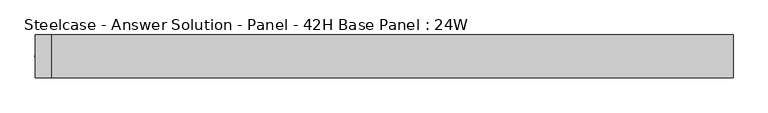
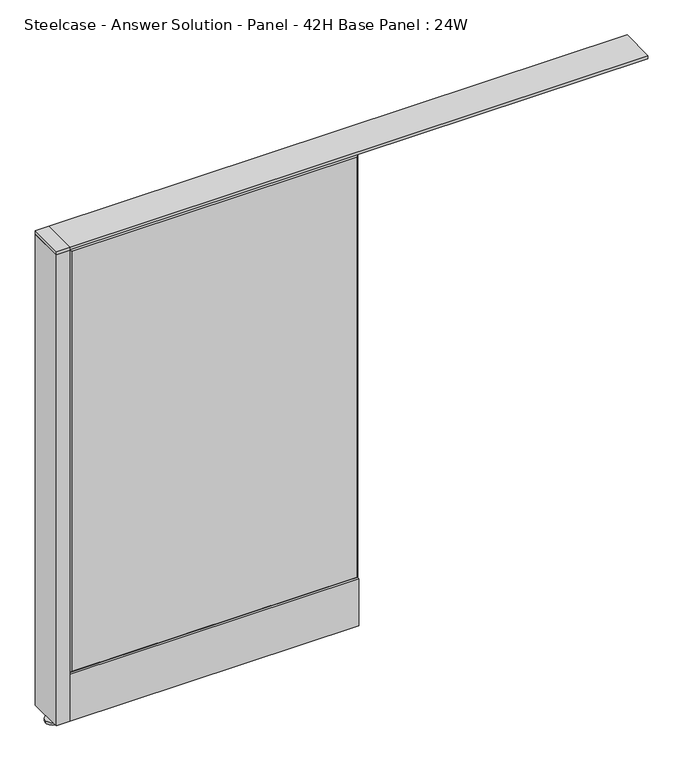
"""IFC4 building model written with IfcOpenShell, lengths in millimetres: furniture geometry, Steelcase - Answer Solution - Panel - 42H Base Panel : 24W."""

from ifc_helpers import new_model, si_unit, point, frame, frame_2d, origin, place, context, project, spatial, polyline, circle_curve, trimmed, segment, composite_curve, outline, extrude, faceted_brep, source, transform, mapped, element, save


def steelcase_answer_solution_panel_42h_base_panel_24w_7740fbed(model_context):
    return source(origin(), model_context, "Body", "SolidModel", [
        extrude(outline(composite_curve([segment(trimmed(circle_curve(frame_2d((-319.024, 0.0039657)), 5.08), [point((-324.104, 0.0039657))], [point((-313.944, 0.0039657))], False, "CARTESIAN"), True, "CONTINUOUS"), segment(trimmed(circle_curve(frame_2d((-319.024, 0.0039657)), 5.08), [point((-313.944, 0.0039657))], [point((-324.104, 0.0039657))], False, "CARTESIAN"), True, "CONTINUOUS")], self_intersect=False)), frame((0.0, 0.0, 5.0799671), z_axis=(0.0, 0.0, 1.0), x_axis=(1.0, 0.0, 0.0)), (0.0, 0.0, 1.0), 10.414),
        extrude(outline(composite_curve([segment(trimmed(circle_curve(frame_2d((-319.024, 0.0039657)), 15.24), [point((-334.264, 0.0039657))], [point((-303.784, 0.0039657))], False, "CARTESIAN"), True, "CONTINUOUS"), segment(trimmed(circle_curve(frame_2d((-319.024, 0.0039657)), 15.24), [point((-303.784, 0.0039657))], [point((-334.264, 0.0039657))], False, "CARTESIAN"), True, "CONTINUOUS")], self_intersect=False)), frame((0.0, 0.0, -3.29e-05), z_axis=(0.0, 0.0, 1.0), x_axis=(1.0, 0.0, 0.0)), (0.0, 0.0, 1.0), 5.08),
        extrude(outline(polyline([(-333.375, 38.1039851), (-304.8, 38.1039851), (-304.8, -38.0960149), (-333.375, -38.0960149), (-333.375, 38.1039851)])), frame((0.0, 0.0, 1065.8348), z_axis=(0.0, 0.0, 1.0), x_axis=(1.0, 0.0, 0.0)), (0.0, 0.0, 1.0), 7.3151671),
        extrude(outline(polyline([(-333.375, 38.1039851), (-304.8, 38.1039851), (-304.8, -38.0960149), (-333.375, -38.0960149), (-333.375, 38.1039851)])), frame((0.0, 0.0, 15.4939671), z_axis=(0.0, 0.0, 1.0), x_axis=(1.0, 0.0, 0.0)), (0.0, 0.0, 1.0), 1050.3408329),
        faceted_brep([(-299.974, 38.1635011, 1061.974), (299.974, 38.1635011, 1061.974), (299.974, 38.1635011, 125.476), (-299.974, 38.1635011, 125.476), (-304.8, 33.3375011, 1066.8), (-304.8, 33.3375011, 120.65), (304.8, 33.3375011, 120.65), (304.8, 33.3375011, 1066.8)], [[[0, 1, 2, 3]], [[4, 5, 6, 7]], [[4, 7, 1, 0]], [[7, 6, 2, 1]], [[6, 5, 3, 2]], [[5, 4, 0, 3]]]),
        faceted_brep([(299.974, -38.1635011, 1061.974), (-299.974, -38.1635011, 1061.974), (-299.974, -38.1635011, 125.476), (299.974, -38.1635011, 125.476), (304.8, -33.3375011, 1066.8), (304.8, -33.3375011, 120.65), (-304.8, -33.3375011, 120.65), (-304.8, -33.3375011, 1066.8)], [[[0, 1, 2, 3]], [[4, 5, 6, 7]], [[4, 7, 1, 0]], [[7, 6, 2, 1]], [[6, 5, 3, 2]], [[5, 4, 0, 3]]]),
        extrude(outline(polyline([(914.4, 38.1000194), (914.4, -38.1000194), (-304.8, -38.1000194), (-304.8, 38.1000194), (914.4, 38.1000194)])), frame((0.0, 0.0, 1066.8), z_axis=(0.0, 0.0, 1.0), x_axis=(1.0, 0.0, 0.0)), (0.0, 0.0, 1.0), 6.35),
        extrude(outline(polyline([(25.4000011, 119.8575157), (25.4000011, 120.65), (38.1000194, 120.65), (38.1000194, 15.494), (37.3075215, 15.494), (37.3075215, 119.8575157), (25.4000011, 119.8575157)])), frame((-304.8, 0.0, 0.0), z_axis=(1.0, 0.0, 0.0), x_axis=(0.0, 1.0, 0.0)), (0.0, 0.0, 1.0), 609.6),
        extrude(outline(polyline([(-25.4000011, 119.8575157), (-37.3075215, 119.8575157), (-37.3075215, 15.494), (-38.1000194, 15.494), (-38.1000194, 120.65), (-25.4000011, 120.65), (-25.4000011, 119.8575157)])), frame((-304.8, 0.0, 0.0), z_axis=(1.0, 0.0, 0.0), x_axis=(0.0, 1.0, 0.0)), (0.0, 0.0, 1.0), 609.6),
    ])


if __name__ == "__main__":
    model = new_model("IFC4")
    model_context = context("Model", 3, world=origin())
    ifc_project = project(units=[si_unit("LENGTHUNIT", "METRE", prefix="MILLI")], contexts=[model_context])
    site = spatial("IfcSite", under=ifc_project)
    building = spatial("IfcBuilding", under=site)
    placement = place(None, origin())
    steelcase_answer_solution_panel_42h_base_panel_24w_shape = steelcase_answer_solution_panel_42h_base_panel_24w_7740fbed(model_context)
    element("IfcFurniture", 1, ObjectType="Steelcase - Answer Solution - Panel - 42H Base Panel : 24W", at=placement, inside=building, context=model_context, shape_type="MappedRepresentation", body=[
        mapped(steelcase_answer_solution_panel_42h_base_panel_24w_shape, transform((0.0, 0.0, 0.0), x_axis=(1.0, 0.0, 0.0), y_axis=(0.0, 1.0, 0.0), z_axis=(0.0, 0.0, 1.0))),
    ])
    save(model, "model.ifc")
